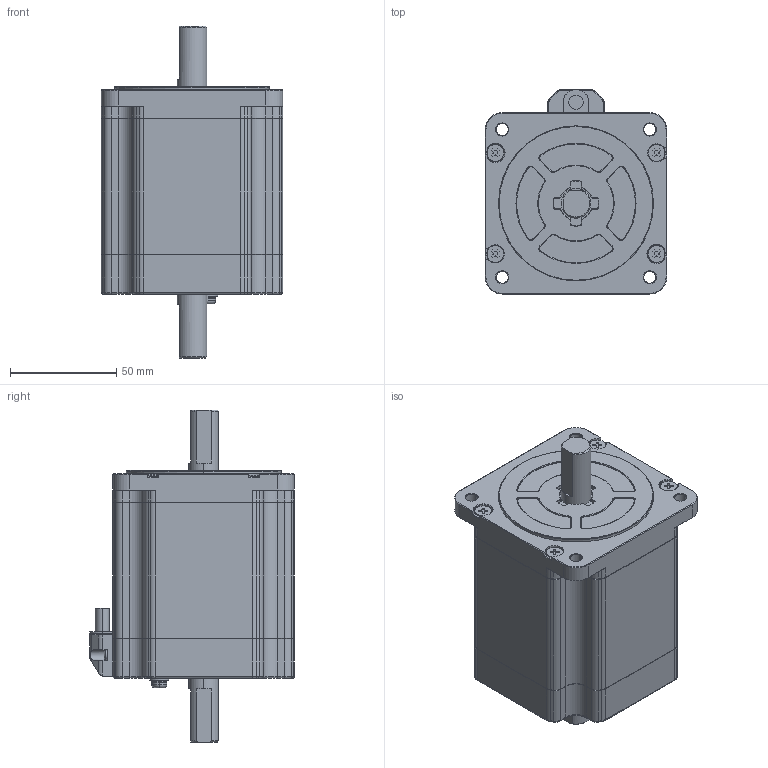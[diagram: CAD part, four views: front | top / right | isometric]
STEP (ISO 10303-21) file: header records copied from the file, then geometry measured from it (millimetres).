
FILE_DESCRIPTION (( 'STEP AP203' ), '1' );
FILE_NAME ('SM2862-0421.STEP', '2012-06-27T11:06:48', ( 'sanyodenki-admin' ), ( '' ), 'SwSTEP 2.0', 'SolidWorks 2011', '' );
FILE_SCHEMA (( 'CONFIG_CONTROL_DESIGN' ));
Length unit declared in the file: millimetre
Products named in the file (1): SM2862-0421
Bounding box: 85.5 x 96.5 x 156.45 mm (x, y, z)
Volume: 645228.2 mm3; surface area: 49827.7 mm2
Topology: 1 solids, 1 shells, 785 faces, 1979 edges, 1218 vertices
Faces by surface type: plane 296, cylinder 274, cone 149, torus 66
Entity records: 23598 total; most frequent: DIRECTION 4329, CARTESIAN_POINT 4141, ORIENTED_EDGE 3958, EDGE_CURVE 1979, AXIS2_PLACEMENT_3D 1602, VERTEX_POINT 1218, VECTOR 1125, LINE 1125
